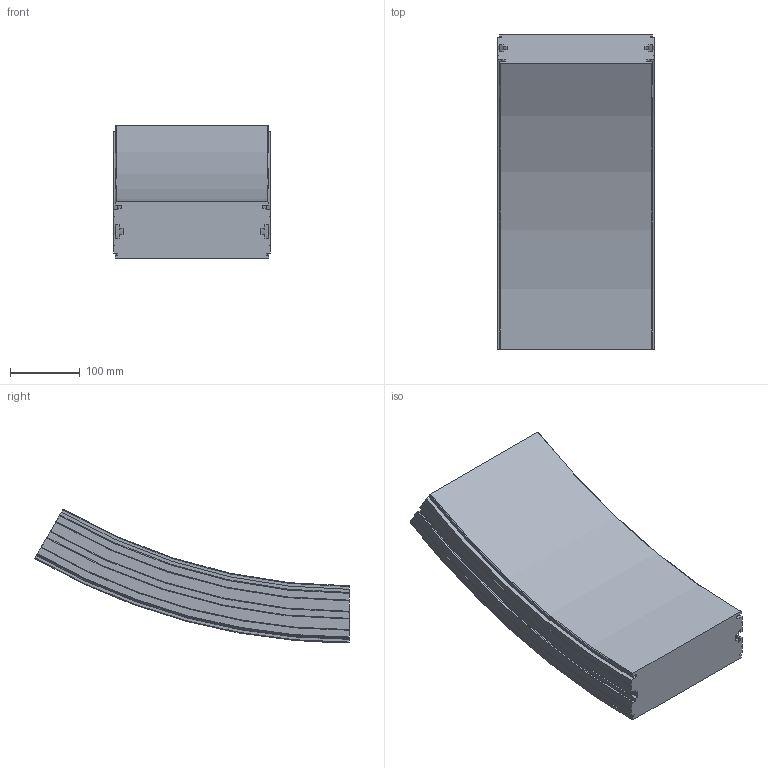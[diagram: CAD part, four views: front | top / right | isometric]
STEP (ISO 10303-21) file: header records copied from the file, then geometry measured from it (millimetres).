
FILE_DESCRIPTION(/* description */ ('VERTIKALKURVA S220 R860'),/* implementation_level */ '2;1');
FILE_NAME(/* name */ '\\carryline.intra\privat\users\mathias\Desktop\Tillfälliga filer\220-5695+220-2000-NER-01.stp',/* time_stamp */ '2018-11-29T14:44:31+01:00',/* author */ ('MD'),/* organization */ ('CARRYLINE'),/* preprocessor_version */ 'ST-DEVELOPER v17',/* originating_system */ 'Autodesk Inventor 2018',/* authorisation */ '');
FILE_SCHEMA (('AUTOMOTIVE_DESIGN { 1 0 10303 214 3 1 1 }'));
Length unit declared in the file: millimetre
Products named in the file (1): 220-5695+220-2000-NER-01
Bounding box: 224 x 449.75 x 191.09 mm (x, y, z)
Volume: 7957741.8 mm3; surface area: 373838.5 mm2
Topology: 1 solids, 1 shells, 113 faces, 318 edges, 212 vertices
Faces by surface type: plane 48, cylinder 31, bspline 14, cone 14, torus 6
Entity records: 8328 total; most frequent: CARTESIAN_POINT 5360, ORIENTED_EDGE 636, DIRECTION 576, EDGE_CURVE 318, VERTEX_POINT 212, AXIS2_PLACEMENT_3D 199, LINE 178, VECTOR 178
